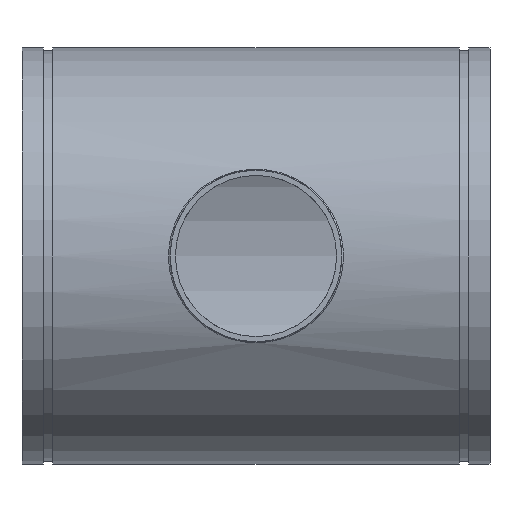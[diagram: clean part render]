
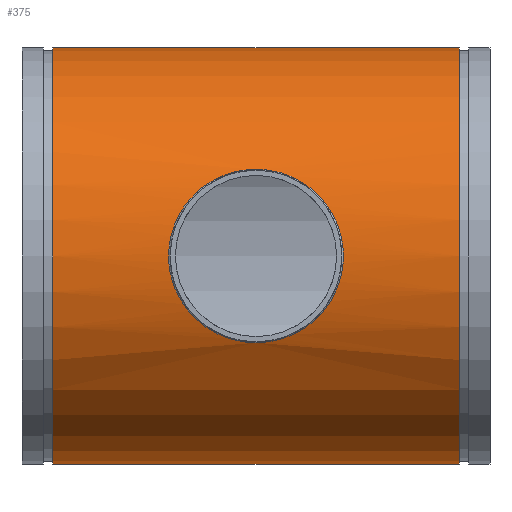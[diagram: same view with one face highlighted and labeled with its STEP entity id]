
A CAD part, front view. The second image highlights one B-rep face of the part: STEP entity #375.
In plain terms, the highlighted cylindrical face has radius 406.4 mm (diameter 812.8 mm), a full revolution.
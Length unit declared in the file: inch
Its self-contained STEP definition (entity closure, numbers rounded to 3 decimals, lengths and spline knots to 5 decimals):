
#54=FACE_BOUND('',#119,.T.);
#65=LINE('',#826,#76);
#76=VECTOR('',#483,16.);
#87=CYLINDRICAL_SURFACE('',#415,16.);
#98=FACE_OUTER_BOUND('',#118,.T.);
#118=EDGE_LOOP('',(#266,#267,#268,#269));
#119=EDGE_LOOP('',(#270));
#150=B_SPLINE_CURVE_WITH_KNOTS('',3,(#793,#794,#795,#796,#797,#798,#799,
#800,#801,#802,#803,#804,#805,#806,#807,#808,#809,#810,#811,#812,#813,#814,
#815,#816,#817,#818,#819,#820,#821),.UNSPECIFIED.,.T.,.F.,(4,1,1,1,1,1,
1,1,1,1,1,1,1,1,1,1,1,1,1,1,1,1,1,1,1,1,4),(-102.37841,-98.72204,
-95.06567,-87.75293,-82.87776,-78.0026,
-77.39321,-76.78381,-75.56502,-73.12744,
-68.25228,-63.37711,-58.50195,-53.62679,
-48.75163,-43.87646,-39.0013,-34.12614,
-29.25098,-26.81339,-24.37581,-23.15702,
-19.50065,-14.62549,-7.31274,-3.65637,
0.),.UNSPECIFIED.);
#154=CIRCLE('',#416,16.);
#155=CIRCLE('',#417,16.);
#182=VERTEX_POINT('',#756);
#185=VERTEX_POINT('',#823);
#186=VERTEX_POINT('',#825);
#219=EDGE_CURVE('',#182,#182,#150,.T.);
#220=EDGE_CURVE('',#185,#185,#154,.T.);
#221=EDGE_CURVE('',#185,#186,#65,.T.);
#222=EDGE_CURVE('',#186,#186,#155,.T.);
#266=ORIENTED_EDGE('',*,*,#220,.T.);
#267=ORIENTED_EDGE('',*,*,#221,.T.);
#268=ORIENTED_EDGE('',*,*,#222,.T.);
#269=ORIENTED_EDGE('',*,*,#221,.F.);
#270=ORIENTED_EDGE('',*,*,#219,.F.);
#375=ADVANCED_FACE('',(#98,#54),#87,.T.);
#415=AXIS2_PLACEMENT_3D('',#822,#479,#480);
#416=AXIS2_PLACEMENT_3D('',#824,#481,#482);
#417=AXIS2_PLACEMENT_3D('',#827,#484,#485);
#479=DIRECTION('center_axis',(-1.,0.,0.));
#480=DIRECTION('ref_axis',(0.,-1.,0.));
#481=DIRECTION('center_axis',(1.,0.,0.));
#482=DIRECTION('ref_axis',(0.,-1.,0.));
#483=DIRECTION('',(1.,0.,0.));
#484=DIRECTION('center_axis',(-1.,0.,0.));
#485=DIRECTION('ref_axis',(0.,-1.,0.));
#756=CARTESIAN_POINT('',(0.,-14.54211,-6.67287));
#793=CARTESIAN_POINT('Ctrl Pts',(0.,-14.54211,-6.67287));
#794=CARTESIAN_POINT('Ctrl Pts',(0.50897,-14.54211,-6.67287));
#795=CARTESIAN_POINT('Ctrl Pts',(1.52645,-14.59584,-6.55736));
#796=CARTESIAN_POINT('Ctrl Pts',(3.43968,-14.88983,-5.88527));
#797=CARTESIAN_POINT('Ctrl Pts',(5.15725,-15.39444,-4.52089));
#798=CARTESIAN_POINT('Ctrl Pts',(6.34481,-15.842,-2.49852));
#799=CARTESIAN_POINT('Ctrl Pts',(6.67417,-15.97916,-1.09294));
#800=CARTESIAN_POINT('Ctrl Pts',(6.72174,-15.99864,-0.25252));
#801=CARTESIAN_POINT('Ctrl Pts',(6.72825,-16.00137,0.08418));
#802=CARTESIAN_POINT('Ctrl Pts',(6.70565,-15.99192,0.67326));
#803=CARTESIAN_POINT('Ctrl Pts',(6.52661,-15.91835,1.84025));
#804=CARTESIAN_POINT('Ctrl Pts',(5.89883,-15.66696,3.40607));
#805=CARTESIAN_POINT('Ctrl Pts',(4.6413,-15.23307,4.96255));
#806=CARTESIAN_POINT('Ctrl Pts',(2.98255,-14.80493,6.09141));
#807=CARTESIAN_POINT('Ctrl Pts',(1.03257,-14.53101,6.69788));
#808=CARTESIAN_POINT('Ctrl Pts',(-1.03262,-14.53087,6.69798));
#809=CARTESIAN_POINT('Ctrl Pts',(-2.98252,-14.805,6.09138));
#810=CARTESIAN_POINT('Ctrl Pts',(-4.6413,-15.23302,4.96253));
#811=CARTESIAN_POINT('Ctrl Pts',(-5.89889,-15.66702,3.40605));
#812=CARTESIAN_POINT('Ctrl Pts',(-6.52656,-15.91832,1.84028));
#813=CARTESIAN_POINT('Ctrl Pts',(-6.73132,-16.00252,0.50658));
#814=CARTESIAN_POINT('Ctrl Pts',(-6.73134,-16.00263,-0.33777));
#815=CARTESIAN_POINT('Ctrl Pts',(-6.61621,-15.95511,-1.34111));
#816=CARTESIAN_POINT('Ctrl Pts',(-6.25984,-15.80995,-2.64295));
#817=CARTESIAN_POINT('Ctrl Pts',(-5.1574,-15.39451,-4.52093));
#818=CARTESIAN_POINT('Ctrl Pts',(-3.43957,-14.88979,-5.88528));
#819=CARTESIAN_POINT('Ctrl Pts',(-1.52649,-14.59586,-6.55736));
#820=CARTESIAN_POINT('Ctrl Pts',(-0.50897,-14.54211,-6.67287));
#821=CARTESIAN_POINT('Ctrl Pts',(0.,-14.54211,
-6.67287));
#822=CARTESIAN_POINT('Origin',(18.,0.,0.));
#823=CARTESIAN_POINT('',(-15.625,16.,0.));
#824=CARTESIAN_POINT('Origin',(-15.625,0.,0.));
#825=CARTESIAN_POINT('',(15.625,16.,0.));
#826=CARTESIAN_POINT('',(18.,16.,0.));
#827=CARTESIAN_POINT('Origin',(15.625,0.,0.));
